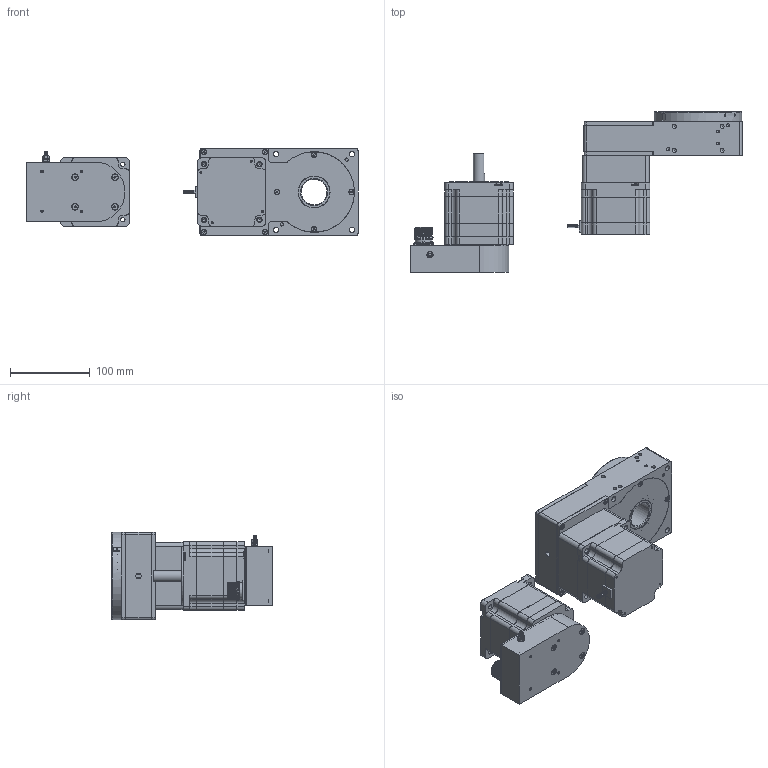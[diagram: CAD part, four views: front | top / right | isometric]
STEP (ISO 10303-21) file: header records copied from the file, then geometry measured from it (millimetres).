
FILE_DESCRIPTION (( 'STEP AP214' ), '1' );
FILE_NAME ('MDT360110-QN-MU-N34.STEP', '2025-06-16T11:50:24', ( '' ), ( '' ), 'SwSTEP 2.0', 'SolidWorks 2022', '' );
FILE_SCHEMA (( 'AUTOMOTIVE_DESIGN' ));
Length unit declared in the file: millimetre
Products named in the file (5): MDT360110-01-999-Drehscheibe-mit-Hohlwelle; Kopie von GSM34-3,3Nm^MDT360110-QN-MU-N34; Kopie von NSM34-3,5Nm^MDT360110-QN-MU-N34; MDT360110-QN-MU-N34; MDT360110-QN-MU-N34-Gehäuse_defeature
Assembly tree (4 placements, depth 2):
  MDT360110-QN-MU-N34
    MDT360110-QN-MU-N34-Gehäuse_defeature
    MDT360110-01-999-Drehscheibe-mit-Hohlwelle
    Kopie von NSM34-3,5Nm^MDT360110-QN-MU-N34
    Kopie von GSM34-3,3Nm^MDT360110-QN-MU-N34
Bounding box: 416 x 201.1 x 110 mm (x, y, z)
Volume: 780298 mm3; surface area: 457282.5 mm2
Topology: 26 solids, 104 shells, 3152 faces, 8059 edges, 5223 vertices
Faces by surface type: plane 1705, cylinder 898, cone 263, bspline 203, torus 55, sphere 28
Full cylindrical faces by diameter (mm): 1 x5, 1.03 x16, 1.8 x4, 2.05 x3, 2.4 x4, 2.459 x4, 2.5 x21, 2.8 x6, 3 x26, 3.1 x8, 3.2 x7, 3.3 x16, 3.4 x4, 4 x37, 4.02 x10, 4.2 x6, 4.3 x3, 4.5 x8, 5 x28, 5.5 x8, 6 x12, 6.6 x8, 6.8 x5, 7 x7, 7.4 x1, 7.64 x4, 8 x8, 8.4 x4, 9 x1, 10 x1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
Entity records: 138179 total; most frequent: CARTESIAN_POINT 35851, ORIENTED_EDGE 14315, DIRECTION 13395, EDGE_CURVE 7180, VERTEX_POINT 4994, AXIS2_PLACEMENT_3D 4795, EDGE_LOOP 4128, LINE 3805
